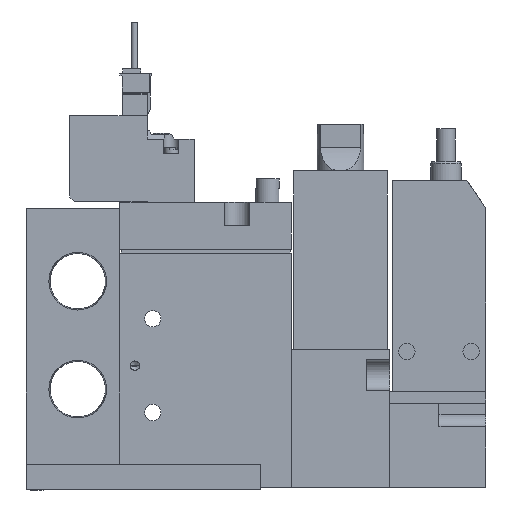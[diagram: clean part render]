
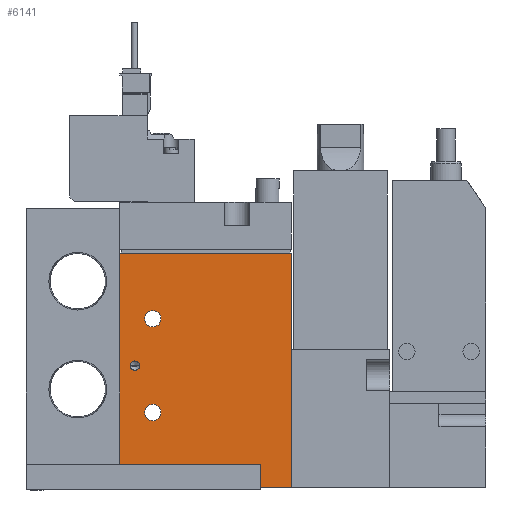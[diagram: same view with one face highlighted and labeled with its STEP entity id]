
A CAD part, left-side view. The second image highlights one B-rep face of the part: STEP entity #6141.
In plain terms, the highlighted planar face has unit normal (-1, 0, 0) as drawn and (1, 0, 0) by its records, which use the part's own axes.
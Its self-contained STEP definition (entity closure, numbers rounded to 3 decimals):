
#6141=ADVANCED_FACE('',(#9619,#9620,#9621,#9622),#9623,.F.);
#9619=FACE_BOUND('',#16451,.T.);
#9620=FACE_BOUND('',#16452,.T.);
#9621=FACE_BOUND('',#16453,.T.);
#9622=FACE_OUTER_BOUND('',#16454,.T.);
#9623=PLANE('',#16455);
#16451=EDGE_LOOP('',(#24689));
#16452=EDGE_LOOP('',(#24690));
#16453=EDGE_LOOP('',(#24691));
#16454=EDGE_LOOP('',(#24692,#24693,#24694,#24695));
#16455=AXIS2_PLACEMENT_3D('',#24696,#24697,#24698);
#24689=ORIENTED_EDGE('',*,*,#46655,.F.);
#24690=ORIENTED_EDGE('',*,*,#46657,.T.);
#24691=ORIENTED_EDGE('',*,*,#46658,.T.);
#24692=ORIENTED_EDGE('',*,*,#46648,.T.);
#24693=ORIENTED_EDGE('',*,*,#46645,.F.);
#24694=ORIENTED_EDGE('',*,*,#46649,.F.);
#24695=ORIENTED_EDGE('',*,*,#46641,.T.);
#24696=CARTESIAN_POINT('',(8.5,-19.444,50.0));
#24697=DIRECTION('',(-1.0,0.0,0.0));
#24698=DIRECTION('',(0.0,0.0,1.0));
#46641=EDGE_CURVE('',#54354,#54352,#54355,.T.);
#46645=EDGE_CURVE('',#54359,#54357,#54361,.T.);
#46648=EDGE_CURVE('',#54352,#54357,#54366,.T.);
#46649=EDGE_CURVE('',#54354,#54359,#54367,.T.);
#46655=EDGE_CURVE('',#54376,#54376,#54377,.T.);
#46657=EDGE_CURVE('',#54378,#54378,#54379,.T.);
#46658=EDGE_CURVE('',#54380,#54380,#54381,.T.);
#54352=VERTEX_POINT('',#67546);
#54354=VERTEX_POINT('',#67549);
#54355=LINE('',#67550,#67551);
#54357=VERTEX_POINT('',#67554);
#54359=VERTEX_POINT('',#67557);
#54361=LINE('',#67560,#67561);
#54366=LINE('',#67566,#67567);
#54367=LINE('',#67568,#67569);
#54376=VERTEX_POINT('',#67578);
#54377=CIRCLE('',#67579,1.0);
#54378=VERTEX_POINT('',#67580);
#54379=CIRCLE('',#67581,1.75);
#54380=VERTEX_POINT('',#67582);
#54381=CIRCLE('',#67583,1.75);
#67546=CARTESIAN_POINT('',(8.5,-19.444,0.0));
#67549=CARTESIAN_POINT('',(8.5,-19.444,50.0));
#67550=CARTESIAN_POINT('',(8.5,-19.444,50.0));
#67551=VECTOR('',#85253,1.0);
#67554=CARTESIAN_POINT('',(8.5,17.056,0.0));
#67557=CARTESIAN_POINT('',(8.5,17.056,50.0));
#67560=CARTESIAN_POINT('',(8.5,17.056,50.0));
#67561=VECTOR('',#85257,1.0);
#67566=CARTESIAN_POINT('',(8.5,-19.444,0.0));
#67567=VECTOR('',#85264,1.0);
#67568=CARTESIAN_POINT('',(8.5,-19.444,50.0));
#67569=VECTOR('',#85265,1.0);
#67578=CARTESIAN_POINT('',(8.5,-17.244,26.0));
#67579=AXIS2_PLACEMENT_3D('',#85278,#85279,#85280);
#67580=CARTESIAN_POINT('',(8.5,-10.694,36.0));
#67581=AXIS2_PLACEMENT_3D('',#85281,#85282,#85283);
#67582=CARTESIAN_POINT('',(8.5,-10.694,16.0));
#67583=AXIS2_PLACEMENT_3D('',#85284,#85285,#85286);
#85253=DIRECTION('',(0.0,0.0,-1.0));
#85257=DIRECTION('',(0.0,0.0,-1.0));
#85264=DIRECTION('',(0.0,1.0,0.0));
#85265=DIRECTION('',(0.0,1.0,0.0));
#85278=CARTESIAN_POINT('',(8.5,-16.244,26.0));
#85279=DIRECTION('',(1.0,0.,0.0));
#85280=DIRECTION('',(0.,-1.0,0.0));
#85281=CARTESIAN_POINT('',(8.5,-12.444,36.0));
#85282=DIRECTION('',(-1.0,0.0,0.0));
#85283=DIRECTION('',(0.0,1.0,0.0));
#85284=CARTESIAN_POINT('',(8.5,-12.444,16.0));
#85285=DIRECTION('',(-1.0,0.0,0.0));
#85286=DIRECTION('',(0.0,1.0,0.0));
